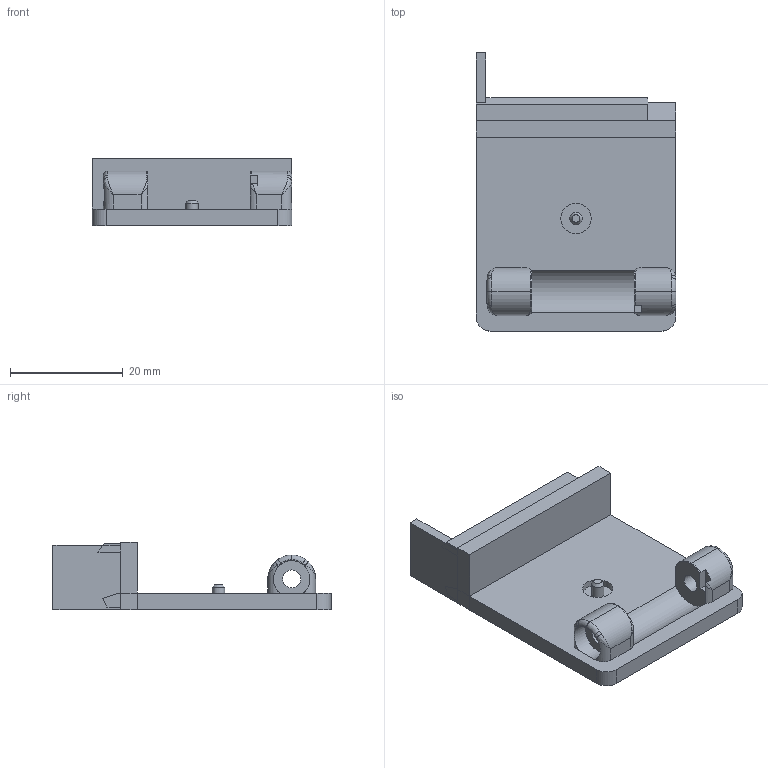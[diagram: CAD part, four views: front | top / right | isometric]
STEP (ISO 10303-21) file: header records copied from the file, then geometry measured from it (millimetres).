
FILE_DESCRIPTION(('FreeCAD Model'),'2;1');
FILE_NAME('Open CASCADE Shape Model','2026-10-18T19:16:06',('FreeCAD'),( 'FreeCAD'),'Open CASCADE STEP processor 7.9','FreeCAD','Unknown');
FILE_SCHEMA(('AUTOMOTIVE_DESIGN { 1 0 10303 214 1 1 1 1 }'));
Length unit declared in the file: millimetre
Products named in the file (1): Open CASCADE STEP translator 7.9 1
Bounding box: 35.5 x 49.43 x 12.05 mm (x, y, z)
Volume: 5691.1 mm3; surface area: 5132 mm2
Topology: 1 solids, 1 shells, 110 faces, 297 edges, 185 vertices
Faces by surface type: plane 62, cylinder 24, bspline 15, torus 8, cone 1
Full cylindrical faces by diameter (mm): 2.2 x1, 3.2 x2, 5.4 x1, 6.2 x1, 6.5 x1, 8 x3
Entity records: 6537 total; most frequent: CARTESIAN_POINT 3941, ORIENTED_EDGE 578, DIRECTION 508, EDGE_CURVE 289, VERTEX_POINT 185, AXIS2_PLACEMENT_3D 178, LINE 152, VECTOR 152
